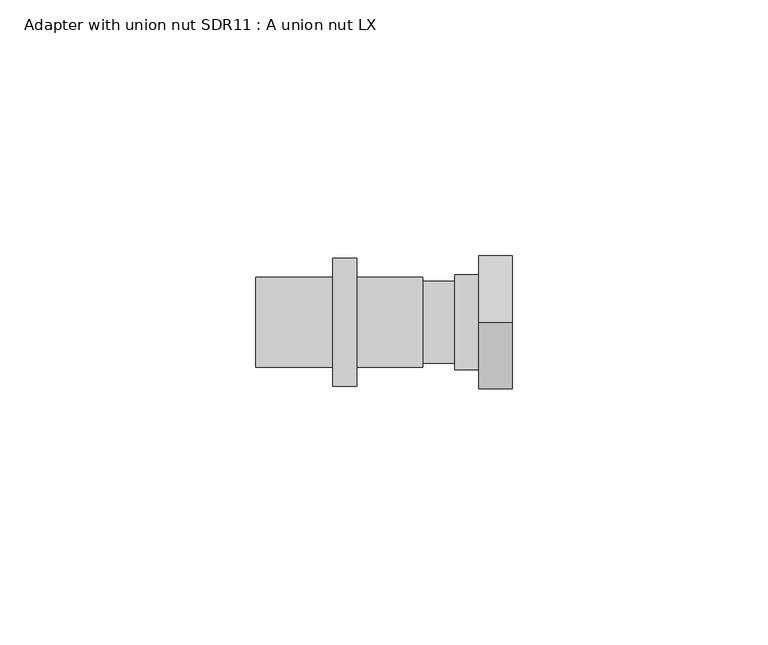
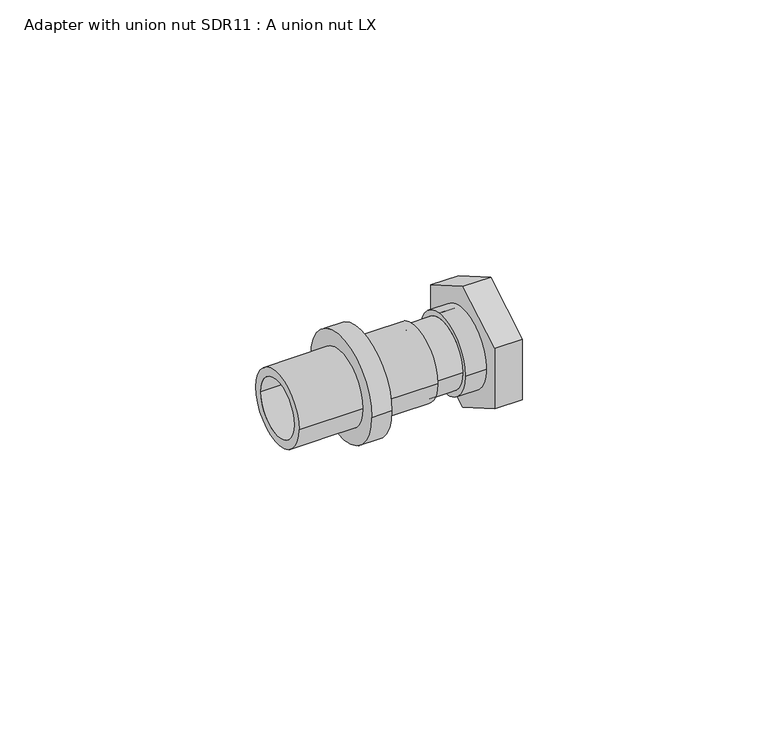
"""IFC4 building model written with IfcOpenShell, lengths in millimetres: pipe fitting geometry, Adapter with union nut SDR11 : A union nut LX."""

from ifc_helpers import new_model, si_unit, frame, origin, place, context, project, spatial, polyline, circle_curve, source, transform, mapped, element, save
from ifc_brep_helpers import plane_surface, cylinder_surface, revolved_surface, advanced_brep


def adapter_with_union_nut_sdr11_a_union_nut_lx_60ab4ac3(model_context):
    return source(origin(), model_context, "Body", "AdvancedBrep", [
        advanced_brep(
        [(17.5, 9.3, 0.0), (17.5, -9.3, 0.0), (6.3, -9.3, 0.0), (6.3, 9.3, 0.0), (6.3, 8.0, 0.0), (6.3, -8.0, 0.0), (0.0, -8.0, 0.0), (0.0, 8.0, 0.0), (0.0, -6.8, 0.0), (0.0, 6.8, 0.0), (8.3, 8.0, 0.0), (8.3, -8.0, 0.0), (17.5, -8.0, 0.0), (17.5, 8.0, 0.0), (8.3, 6.8, 0.0), (8.3, -6.8, 0.0)],
        [
            (0, 1, circle_curve(frame((17.5, 0.0, 0.0), z_axis=(-1.0, 0.0, 0.0), x_axis=(0.0, -1.0, 0.0)), 9.3)),
            (1, 2),
            (2, 3, circle_curve(frame((6.3, 0.0, 0.0), z_axis=(1.0, 0.0, 0.0), x_axis=(0.0, -1.0, 0.0)), 9.3)),
            (3, 0),
            (4, 5, circle_curve(frame((6.3, 0.0, 0.0), z_axis=(-1.0, 0.0, 0.0), x_axis=(0.0, -1.0, 0.0)), 8.0)),
            (5, 6),
            (6, 7, circle_curve(frame((0.0, 0.0, 0.0), z_axis=(1.0, 0.0, 0.0), x_axis=(0.0, -1.0, 0.0)), 8.0)),
            (7, 4),
            (1, 0, circle_curve(frame((17.5, 0.0, 0.0), z_axis=(-1.0, 0.0, 0.0), x_axis=(0.0, 1.0, 0.0)), 9.3)),
            (3, 2, circle_curve(frame((6.3, 0.0, 0.0), z_axis=(1.0, 0.0, 0.0), x_axis=(0.0, 1.0, 0.0)), 9.3)),
            (6, 7, circle_curve(frame((0.0, 0.0, 0.0), z_axis=(-1.0, 0.0, 0.0), x_axis=(0.0, 1.0, 0.0)), 8.0)),
            (8, 9, circle_curve(frame((0.0, 0.0, 0.0), z_axis=(1.0, 0.0, 0.0), x_axis=(0.0, -1.0, 0.0)), 6.8)),
            (9, 8, circle_curve(frame((0.0, 0.0, 0.0), z_axis=(1.0, 0.0, 0.0), x_axis=(0.0, -1.0, 0.0)), 6.8)),
            (5, 4, circle_curve(frame((6.3, 0.0, 0.0), z_axis=(-1.0, 0.0, 0.0), x_axis=(0.0, 1.0, 0.0)), 8.0)),
            (10, 11, circle_curve(frame((8.3, 0.0, 0.0), z_axis=(-1.0, 0.0, 0.0), x_axis=(0.0, -1.0, 0.0)), 8.0)),
            (11, 12),
            (12, 13, circle_curve(frame((17.5, 0.0, 0.0), z_axis=(1.0, 0.0, 0.0), x_axis=(0.0, -1.0, 0.0)), 8.0)),
            (13, 10),
            (12, 13, circle_curve(frame((17.5, 0.0, 0.0), z_axis=(-1.0, 0.0, 0.0), x_axis=(0.0, 1.0, 0.0)), 8.0)),
            (11, 10, circle_curve(frame((8.3, 0.0, 0.0), z_axis=(-1.0, 0.0, 0.0), x_axis=(0.0, 1.0, 0.0)), 8.0)),
            (14, 15, circle_curve(frame((8.3, 0.0, 0.0), z_axis=(-1.0, 0.0, 0.0), x_axis=(0.0, -1.0, 0.0)), 6.8)),
            (15, 14, circle_curve(frame((8.3, 0.0, 0.0), z_axis=(-1.0, 0.0, 0.0), x_axis=(0.0, -1.0, 0.0)), 6.8)),
            (14, 9),
            (8, 15),
        ],
        [
            cylinder_surface(frame((0.0, 0.0, 0.0), z_axis=(1.0, 0.0, 0.0), x_axis=(0.0, -1.0, 0.0)), 9.3),
            cylinder_surface(frame((0.0, 0.0, 0.0), z_axis=(1.0, 0.0, 0.0), x_axis=(0.0, -1.0, 0.0)), 8.0),
            cylinder_surface(frame((0.0, 0.0, 0.0), z_axis=(1.0, 0.0, 0.0), x_axis=(0.0, 1.0, 0.0)), 9.3),
            plane_surface(frame((0.0, 0.0, 0.0), z_axis=(-1.0, 0.0, 0.0), x_axis=(0.0, 1.0, 0.0))),
            cylinder_surface(frame((0.0, 0.0, 0.0), z_axis=(1.0, 0.0, 0.0), x_axis=(0.0, 1.0, 0.0)), 8.0),
            plane_surface(frame((6.3, 0.0, 0.0), z_axis=(-1.0, 0.0, 0.0), x_axis=(0.0, 1.0, 0.0))),
            revolved_surface(polyline([(17.5, -8.0, 0.0), (8.3, -8.0, 0.0)]), (0.0, 0.0, 0.0), (1.0, 0.0, 0.0)),
            plane_surface(frame((17.5, 0.0, 0.0), z_axis=(1.0, 0.0, 0.0), x_axis=(0.0, 1.0, 0.0))),
            revolved_surface(polyline([(17.5, 8.0, 0.0), (8.3, 8.0, 0.0)]), (0.0, 0.0, 0.0), (1.0, 0.0, 0.0)),
            plane_surface(frame((8.3, 0.0, 0.0), z_axis=(1.0, 0.0, 0.0), x_axis=(0.0, 1.0, 0.0))),
            revolved_surface(polyline([(0.0, -6.8, 0.0), (8.3, -6.8, 0.0)]), (14.25, 0.0, 0.0), (-1.0, 0.0, 0.0)),
        ],
        [
            (0, [[1, 2, 3, 4]]),
            (1, [[5, 6, 7, 8]]),
            (2, [[-2, 9, -4, 10]]),
            (3, [[-7, 11], [12, 13]]),
            (4, [[-6, 14, -8, -11]]),
            (5, [[-3, -10], [-5, -14]]),
            (6, [[15, 16, 17, 18]]),
            (7, [[-1, -9], [-17, 19]]),
            (8, [[-16, 20, -18, -19]]),
            (9, [[-15, -20], [21, 22]]),
            (10, [[23, -12, 24, -21]]),
            (10, [[-23, -22, -24, -13]]),
        ],
    ),
        advanced_brep(
        [(17.5, -13.0, -7.5055535), (11.0, -13.0, -7.5055535), (11.0, 0.0, -15.011107), (17.5, 0.0, -15.011107), (11.0, 13.0, -7.5055535), (17.5, 13.0, -7.5055535), (11.0, 13.0, 7.5055535), (17.5, 13.0, 7.5055535), (11.0, 0.0, 15.011107), (17.5, 0.0, 15.011107), (11.0, -13.0, 7.5055535), (17.5, -13.0, 7.5055535), (11.0, -6.8, 0.0), (11.0, 6.8, 0.0), (17.5, 9.25, 0.0), (17.5, -9.25, 0.0), (14.25, 9.25, 0.0), (14.25, -9.25, 0.0), (14.25, 6.8, 0.0), (14.25, -6.8, 0.0)],
        [
            (0, 1),
            (1, 2),
            (2, 3),
            (3, 0),
            (2, 4),
            (4, 5),
            (5, 3),
            (4, 6),
            (6, 7),
            (7, 5),
            (6, 8),
            (8, 9),
            (9, 7),
            (8, 10),
            (10, 11),
            (11, 9),
            (1, 10),
            (12, 13, circle_curve(frame((11.0, 0.0, 0.0), z_axis=(1.0, 0.0, 0.0), x_axis=(0.0, -1.0, 0.0)), 6.8)),
            (13, 12, circle_curve(frame((11.0, 0.0, 0.0), z_axis=(1.0, 0.0, 0.0), x_axis=(0.0, -1.0, 0.0)), 6.8)),
            (0, 11),
            (14, 15, circle_curve(frame((17.5, 0.0, 0.0), z_axis=(-1.0, 0.0, 0.0), x_axis=(0.0, -1.0, 0.0)), 9.25)),
            (15, 14, circle_curve(frame((17.5, 0.0, 0.0), z_axis=(-1.0, 0.0, 0.0), x_axis=(0.0, -1.0, 0.0)), 9.25)),
            (16, 17, circle_curve(frame((14.25, 0.0, 0.0), z_axis=(1.0, 0.0, 0.0), x_axis=(0.0, -1.0, 0.0)), 9.25)),
            (17, 16, circle_curve(frame((14.25, 0.0, 0.0), z_axis=(1.0, 0.0, 0.0), x_axis=(0.0, -1.0, 0.0)), 9.25)),
            (18, 19, circle_curve(frame((14.25, 0.0, 0.0), z_axis=(-1.0, 0.0, 0.0), x_axis=(0.0, -1.0, 0.0)), 6.8)),
            (19, 18, circle_curve(frame((14.25, 0.0, 0.0), z_axis=(-1.0, 0.0, 0.0), x_axis=(0.0, -1.0, 0.0)), 6.8)),
            (17, 15),
            (14, 16),
            (18, 13),
            (12, 19),
        ],
        [
            plane_surface(frame((11.0, -13.0, -7.5055535), z_axis=(0.0, -0.5000000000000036, -0.8660254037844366), x_axis=(0.0, 0.8660254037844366, -0.5000000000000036))),
            plane_surface(frame((11.0, 0.0, -15.011107), z_axis=(0.0, 0.49999999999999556, -0.8660254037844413), x_axis=(0.0, 0.8660254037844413, 0.49999999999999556))),
            plane_surface(frame((11.0, 13.0, -7.5055535), z_axis=(0.0, 1.0, 0.0), x_axis=(0.0, 0.0, 1.0))),
            plane_surface(frame((11.0, 13.0, 7.5055535), z_axis=(0.0, 0.5000000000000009, 0.8660254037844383), x_axis=(0.0, -0.8660254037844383, 0.5000000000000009))),
            plane_surface(frame((11.0, 0.0, 15.011107), z_axis=(0.0, -0.4999999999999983, 0.8660254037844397), x_axis=(0.0, -0.8660254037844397, -0.4999999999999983))),
            plane_surface(frame((11.0, 0.0, 0.0), z_axis=(-1.0, 0.0, 0.0), x_axis=(0.0, 0.0, -1.0))),
            plane_surface(frame((11.0, -13.0, 7.5055535), z_axis=(0.0, -1.0, 0.0), x_axis=(0.0, 0.0, -1.0))),
            plane_surface(frame((17.5, -13.0, 7.5055535), z_axis=(1.0, 0.0, 0.0), x_axis=(0.0, 0.0, -1.0))),
            plane_surface(frame((14.25, -9.25, 0.0), z_axis=(1.0, 0.0, 0.0), x_axis=(0.0, 0.0, 1.0))),
            revolved_surface(polyline([(14.25, -9.25, 0.0), (17.5, -9.25, 0.0)]), (45.0991925, 0.0, 0.0), (-1.0, 0.0, 0.0)),
            revolved_surface(polyline([(11.0, -6.8, 0.0), (14.25, -6.8, 0.0)]), (14.25, 0.0, 0.0), (-1.0, 0.0, 0.0)),
        ],
        [
            (0, [[1, 2, 3, 4]]),
            (1, [[-3, 5, 6, 7]]),
            (2, [[-6, 8, 9, 10]]),
            (3, [[-9, 11, 12, 13]]),
            (4, [[-12, 14, 15, 16]]),
            (5, [[-2, 17, -14, -11, -8, -5], [18, 19]]),
            (6, [[-1, 20, -15, -17]]),
            (7, [[-4, -7, -10, -13, -16, -20], [21, 22]]),
            (8, [[23, 24], [25, 26]]),
            (9, [[-24, 27, -21, 28]]),
            (9, [[-23, -28, -22, -27]]),
            (10, [[29, -18, 30, -25]]),
            (10, [[-29, -26, -30, -19]]),
        ],
    ),
        advanced_brep(
        [(-17.6, 8.8, 0.0), (-17.6, -8.8, 0.0), (-32.6, -8.8, 0.0), (-32.6, 8.8, 0.0), (-12.9, 12.5, 0.0), (-12.9, -12.5, 0.0), (-17.6, -12.5, 0.0), (-17.6, 12.5, 0.0), (0.0, 8.8, 0.0), (0.0, -8.8, 0.0), (-12.9, -8.8, 0.0), (-12.9, 8.8, 0.0), (-32.6, 6.8, 0.0), (-32.6, -6.8, 0.0), (-17.6, -6.8, 0.0), (0.0, -6.8, 0.0), (0.0, 6.8, 0.0), (-17.6, 6.8, 0.0)],
        [
            (0, 1, circle_curve(frame((-17.6, 0.0, 0.0), z_axis=(-1.0, 0.0, 0.0), x_axis=(0.0, -1.0, 0.0)), 8.8)),
            (1, 2),
            (2, 3, circle_curve(frame((-32.6, 0.0, 0.0), z_axis=(1.0, 0.0, 0.0), x_axis=(0.0, -1.0, 0.0)), 8.8)),
            (3, 0),
            (4, 5, circle_curve(frame((-12.9, 0.0, 0.0), z_axis=(-1.0, 0.0, 0.0), x_axis=(0.0, -1.0, 0.0)), 12.5)),
            (5, 6),
            (6, 7, circle_curve(frame((-17.6, 0.0, 0.0), z_axis=(1.0, 0.0, 0.0), x_axis=(0.0, -1.0, 0.0)), 12.5)),
            (7, 4),
            (8, 9, circle_curve(frame((0.0, 0.0, 0.0), z_axis=(-1.0, 0.0, 0.0), x_axis=(0.0, -1.0, 0.0)), 8.8)),
            (9, 10),
            (10, 11, circle_curve(frame((-12.9, 0.0, 0.0), z_axis=(1.0, 0.0, 0.0), x_axis=(0.0, -1.0, 0.0)), 8.8)),
            (11, 8),
            (12, 13, circle_curve(frame((-32.6, 0.0, 0.0), z_axis=(-1.0, 0.0, 0.0), x_axis=(0.0, -1.0, 0.0)), 6.8)),
            (13, 14),
            (14, 15),
            (15, 16, circle_curve(frame((0.0, 0.0, 0.0), z_axis=(1.0, 0.0, 0.0), x_axis=(0.0, -1.0, 0.0)), 6.8)),
            (16, 17),
            (17, 12),
            (2, 3, circle_curve(frame((-32.6, 0.0, 0.0), z_axis=(-1.0, 0.0, 0.0), x_axis=(0.0, 1.0, 0.0)), 8.8)),
            (12, 13, circle_curve(frame((-32.6, 0.0, 0.0), z_axis=(1.0, 0.0, 0.0), x_axis=(0.0, 1.0, 0.0)), 6.8)),
            (1, 0, circle_curve(frame((-17.6, 0.0, 0.0), z_axis=(-1.0, 0.0, 0.0), x_axis=(0.0, 1.0, 0.0)), 8.8)),
            (6, 7, circle_curve(frame((-17.6, 0.0, 0.0), z_axis=(-1.0, 0.0, 0.0), x_axis=(0.0, 1.0, 0.0)), 12.5)),
            (5, 4, circle_curve(frame((-12.9, 0.0, 0.0), z_axis=(-1.0, 0.0, 0.0), x_axis=(0.0, 1.0, 0.0)), 12.5)),
            (10, 11, circle_curve(frame((-12.9, 0.0, 0.0), z_axis=(-1.0, 0.0, 0.0), x_axis=(0.0, 1.0, 0.0)), 8.8)),
            (9, 8, circle_curve(frame((0.0, 0.0, 0.0), z_axis=(-1.0, 0.0, 0.0), x_axis=(0.0, 1.0, 0.0)), 8.8)),
            (15, 16, circle_curve(frame((0.0, 0.0, 0.0), z_axis=(-1.0, 0.0, 0.0), x_axis=(0.0, 1.0, 0.0)), 6.8)),
        ],
        [
            cylinder_surface(frame((0.0, 0.0, 0.0), z_axis=(1.0, 0.0, 0.0), x_axis=(0.0, -1.0, 0.0)), 8.8),
            cylinder_surface(frame((0.0, 0.0, 0.0), z_axis=(1.0, 0.0, 0.0), x_axis=(0.0, -1.0, 0.0)), 12.5),
            revolved_surface(polyline([(0.0, -6.8, 0.0), (-32.6, -6.8, 0.0)]), (0.0, 0.0, 0.0), (1.0, 0.0, 0.0)),
            plane_surface(frame((-32.6, 0.0, 0.0), z_axis=(-1.0, 0.0, 0.0), x_axis=(0.0, 1.0, 0.0))),
            cylinder_surface(frame((0.0, 0.0, 0.0), z_axis=(1.0, 0.0, 0.0), x_axis=(0.0, 1.0, 0.0)), 8.8),
            plane_surface(frame((-17.6, 0.0, 0.0), z_axis=(-1.0, 0.0, 0.0), x_axis=(0.0, 1.0, 0.0))),
            cylinder_surface(frame((0.0, 0.0, 0.0), z_axis=(1.0, 0.0, 0.0), x_axis=(0.0, 1.0, 0.0)), 12.5),
            plane_surface(frame((-12.9, 0.0, 0.0), z_axis=(1.0, 0.0, 0.0), x_axis=(0.0, 1.0, 0.0))),
            plane_surface(frame((0.0, 0.0, 0.0), z_axis=(1.0, 0.0, 0.0), x_axis=(0.0, 1.0, 0.0))),
            revolved_surface(polyline([(0.0, 6.8, 0.0), (-32.6, 6.8, 0.0)]), (0.0, 0.0, 0.0), (1.0, 0.0, 0.0)),
        ],
        [
            (0, [[1, 2, 3, 4]]),
            (1, [[5, 6, 7, 8]]),
            (0, [[9, 10, 11, 12]]),
            (2, [[13, 14, 15, 16, 17, 18]]),
            (3, [[-3, 19], [-13, 20]]),
            (4, [[-2, 21, -4, -19]]),
            (5, [[-7, 22], [-1, -21]]),
            (6, [[-6, 23, -8, -22]]),
            (7, [[-5, -23], [-11, 24]]),
            (4, [[-10, 25, -12, -24]]),
            (8, [[-9, -25], [-16, 26]]),
            (9, [[-20, -18, -17, -26, -15, -14]]),
        ],
    ),
    ])


if __name__ == "__main__":
    model = new_model("IFC4")
    model_context = context("Model", 3, world=origin())
    ifc_project = project(units=[si_unit("LENGTHUNIT", "METRE", prefix="MILLI")], contexts=[model_context])
    site = spatial("IfcSite", under=ifc_project)
    building = spatial("IfcBuilding", under=site)
    placement = place(None, origin())
    adapter_with_union_nut_sdr11_a_union_nut_lx_shape = adapter_with_union_nut_sdr11_a_union_nut_lx_60ab4ac3(model_context)
    element("IfcPipeFitting", 1, ObjectType="Adapter with union nut SDR11 : A union nut LX", at=placement, inside=building, context=model_context, shape_type="MappedRepresentation", body=[
        mapped(adapter_with_union_nut_sdr11_a_union_nut_lx_shape, transform((0.0, 0.0, 0.0), x_axis=(1.0, 0.0, 0.0), y_axis=(0.0, 1.0, 0.0), z_axis=(0.0, 0.0, 1.0))),
    ])
    save(model, "model.ifc")
